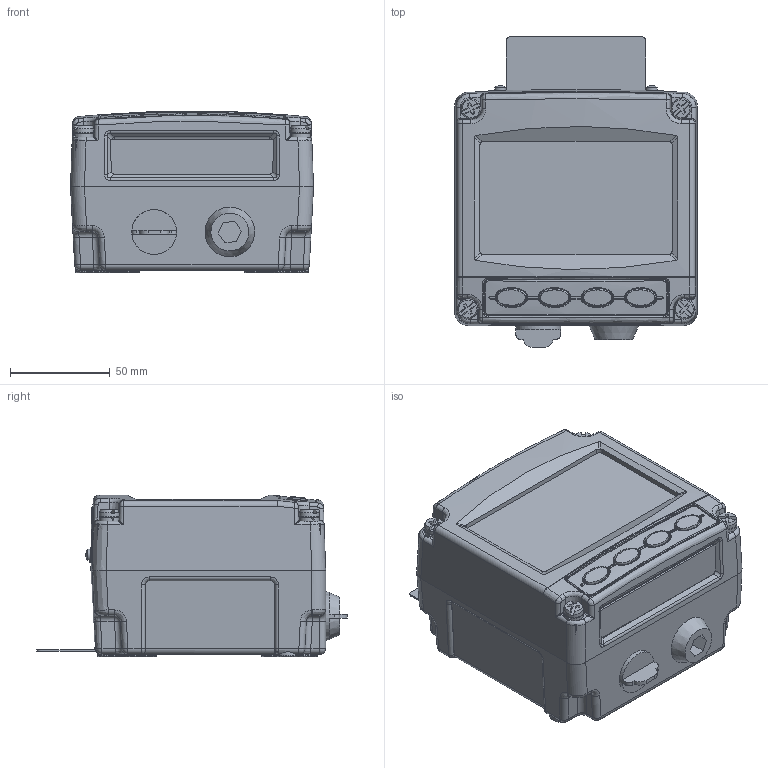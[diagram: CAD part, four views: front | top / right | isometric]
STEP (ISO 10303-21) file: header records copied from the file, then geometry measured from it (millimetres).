
FILE_DESCRIPTION (( 'STEP AP214' ), '1' );
FILE_NAME ('BEKA Stainless Field Enc.STEP', '2018-11-21T11:10:57', ( '' ), ( '' ), 'SwSTEP 2.0', 'SolidWorks 2018', '' );
FILE_SCHEMA (( 'AUTOMOTIVE_DESIGN' ));
Length unit declared in the file: millimetre
Products named in the file (1): BEKA Stainless Field Enc
Bounding box: 122 x 155.84 x 81.19 mm (x, y, z)
Surface area: 82625.1 mm2 (no closed solid volume)
Topology: 0 solids, 20 shells, 679 faces, 1966 edges, 1262 vertices
Faces by surface type: plane 225, cylinder 176, bspline 163, torus 57, cone 31, sphere 27
Full cylindrical faces by diameter (mm): 5.6 x4, 9.88 x4, 10 x4, 22.5 x1
Entity records: 45720 total; most frequent: CARTESIAN_POINT 22353, ORIENTED_EDGE 3293, DIRECTION 3057, EDGE_CURVE 1877, VERTEX_POINT 1231, AXIS2_PLACEMENT_3D 1177, EDGE_LOOP 777, FACE_OUTER_BOUND 724
